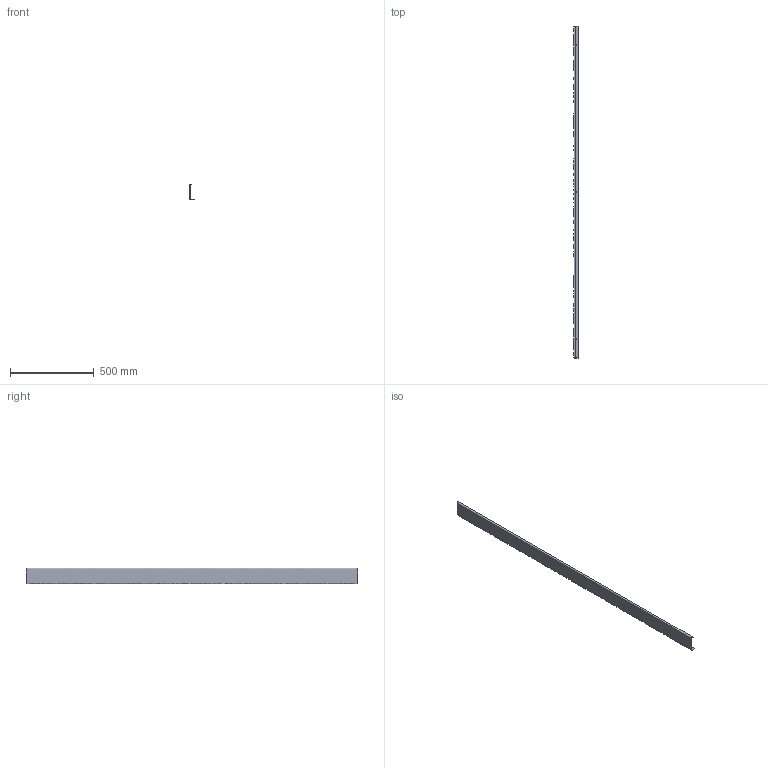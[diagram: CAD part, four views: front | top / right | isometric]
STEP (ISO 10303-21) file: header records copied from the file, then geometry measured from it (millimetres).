
FILE_DESCRIPTION(/* description */ (''),/* implementation_level */ '2;1');
FILE_NAME(/* name */ 'KPZMP1~1',/* time_stamp */ '2024-01-28T21:16:29+01:00',/* author */ (''),/* organization */ (''),/* preprocessor_version */ 'ST-DEVELOPER v16.5',/* originating_system */ '',/* authorisation */ '');
FILE_SCHEMA (('CONFIG_CONTROL_DESIGN'));
Length unit declared in the file: millimetre
Products named in the file (1): Document
Bounding box: 26.5 x 1985 x 92 mm (x, y, z)
Volume: 258513.8 mm3; surface area: 508473.4 mm2
Topology: 1 solids, 1 shells, 18 faces, 48 edges, 32 vertices
Faces by surface type: plane 14, bspline 4
Entity records: 707 total; most frequent: CARTESIAN_POINT 304, ORIENTED_EDGE 96, EDGE_CURVE 48, VERTEX_POINT 32, B_SPLINE_CURVE_WITH_KNOTS 27, EDGE_LOOP 24, ADVANCED_FACE 18, FACE_OUTER_BOUND 18
